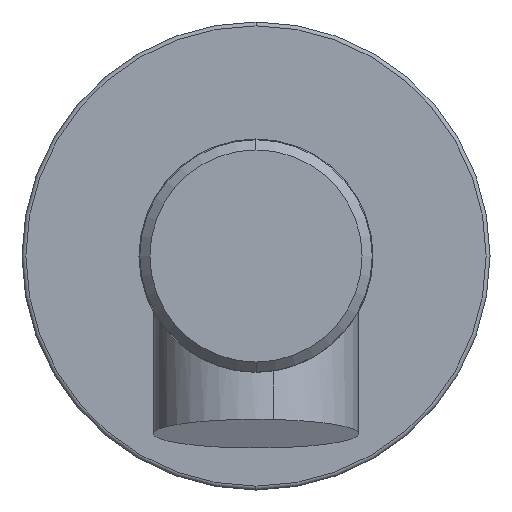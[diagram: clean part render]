
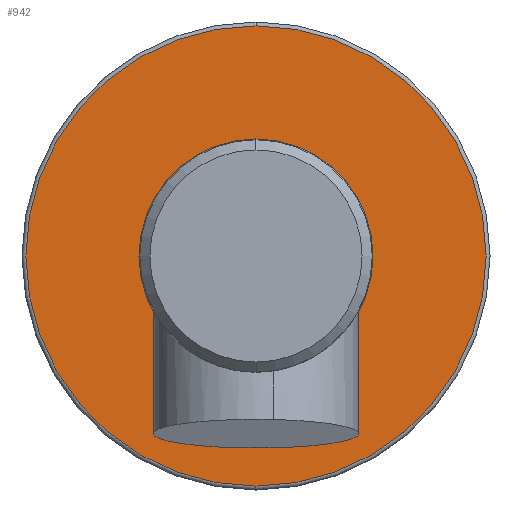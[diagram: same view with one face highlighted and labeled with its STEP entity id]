
A CAD part, front view. The second image highlights one B-rep face of the part: STEP entity #942.
In plain terms, the highlighted planar face has unit normal (0, -1, 0).
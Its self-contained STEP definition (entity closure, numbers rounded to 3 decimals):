
#21=CARTESIAN_POINT('',(0.,31.5,0.));
#22=DIRECTION('',(0.,1.,0.));
#23=DIRECTION('',(-1.,0.,0.));
#24=AXIS2_PLACEMENT_3D('',#21,#22,#23);
#30=CARTESIAN_POINT('',(0.,31.5,0.));
#31=DIRECTION('',(0.,1.,0.));
#32=DIRECTION('',(0.,0.,-1.));
#33=AXIS2_PLACEMENT_3D('',#30,#31,#32);
#35=CARTESIAN_POINT('',(0.,31.5,0.));
#36=DIRECTION('',(0.,1.,0.));
#37=DIRECTION('',(0.,0.,1.));
#38=AXIS2_PLACEMENT_3D('',#35,#36,#37);
#102=CARTESIAN_POINT('',(0.,31.5,0.));
#103=DIRECTION('',(0.,1.,0.));
#104=DIRECTION('',(1.,0.,0.));
#105=AXIS2_PLACEMENT_3D('',#102,#103,#104);
#873=CARTESIAN_POINT('',(0.,31.5,-29.5));
#874=VERTEX_POINT('',#873);
#875=CARTESIAN_POINT('',(0.,31.5,29.5));
#876=VERTEX_POINT('',#875);
#877=CARTESIAN_POINT('',(-14.9,31.5,0.));
#878=CARTESIAN_POINT('',(14.9,31.5,0.));
#879=VERTEX_POINT('',#877);
#880=VERTEX_POINT('',#878);
#926=CARTESIAN_POINT('',(0.,31.5,0.));
#927=DIRECTION('',(0.,-1.,0.));
#928=DIRECTION('',(0.,0.,1.));
#929=AXIS2_PLACEMENT_3D('',#926,#927,#928);
#930=PLANE('',#929);
#932=ORIENTED_EDGE('',*,*,#931,.T.);
#934=ORIENTED_EDGE('',*,*,#933,.T.);
#935=EDGE_LOOP('',(#932,#934));
#936=FACE_OUTER_BOUND('',#935,.F.);
#937=ORIENTED_EDGE('',*,*,#916,.F.);
#939=ORIENTED_EDGE('',*,*,#938,.F.);
#940=EDGE_LOOP('',(#937,#939));
#941=FACE_BOUND('',#940,.F.);
#942=ADVANCED_FACE('',(#936,#941),#930,.T.);
#25=CIRCLE('',#24,14.9);
#34=CIRCLE('',#33,29.5);
#39=CIRCLE('',#38,29.5);
#106=CIRCLE('',#105,14.9);
#916=EDGE_CURVE('',#879,#880,#25,.T.);
#931=EDGE_CURVE('',#874,#876,#34,.T.);
#933=EDGE_CURVE('',#876,#874,#39,.T.);
#938=EDGE_CURVE('',#880,#879,#106,.T.);
